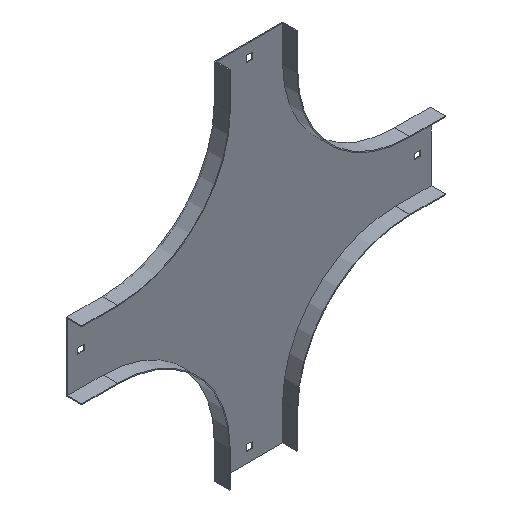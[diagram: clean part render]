
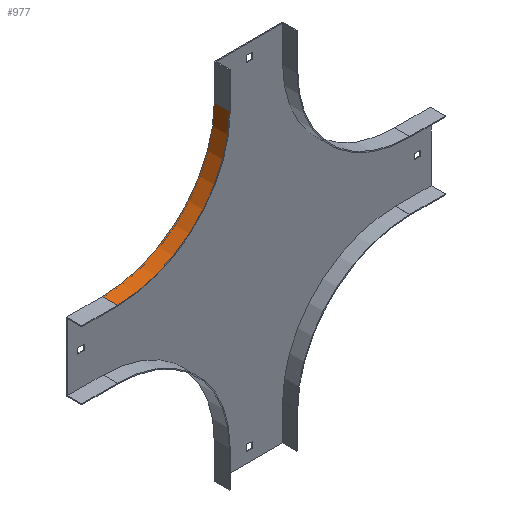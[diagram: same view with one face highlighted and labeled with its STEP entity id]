
A CAD part, isometric view. The second image highlights one B-rep face of the part: STEP entity #977.
In plain terms, the highlighted cylindrical face has radius 126 mm (diameter 252 mm), a partial arc.
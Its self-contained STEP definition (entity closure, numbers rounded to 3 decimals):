
#45 = DIRECTION ( 'NONE',  ( 0., 1., 0. ) ) ;
#75 = FACE_OUTER_BOUND ( 'NONE', #1374, .T. ) ;
#91 = ORIENTED_EDGE ( 'NONE', *, *, #1123, .T. ) ;
#97 = VERTEX_POINT ( 'NONE', #504 ) ;
#102 = CARTESIAN_POINT ( 'NONE',  ( -203., -17., 0. ) ) ;
#130 = CARTESIAN_POINT ( 'NONE',  ( -203., -17., 0. ) ) ;
#158 = VERTEX_POINT ( 'NONE', #1206 ) ;
#197 = VERTEX_POINT ( 'NONE', #1581 ) ;
#232 = CARTESIAN_POINT ( 'NONE',  ( -329., 0., 0. ) ) ;
#377 = VECTOR ( 'NONE', #1394, 1000. ) ;
#393 = LINE ( 'NONE', #1393, #1214 ) ;
#394 = EDGE_CURVE ( 'NONE', #97, #197, #393, .T. ) ;
#421 = CIRCLE ( 'NONE', #534, 126. ) ;
#498 = DIRECTION ( 'NONE',  ( 0., 1., 0. ) ) ;
#504 = CARTESIAN_POINT ( 'NONE',  ( -329., -17., -126. ) ) ;
#534 = AXIS2_PLACEMENT_3D ( 'NONE', #625, #1532, #892 ) ;
#625 = CARTESIAN_POINT ( 'NONE',  ( -329., -17., 0. ) ) ;
#851 = CARTESIAN_POINT ( 'NONE',  ( -329., -17., 0. ) ) ;
#885 = LINE ( 'NONE', #102, #377 ) ;
#886 = DIRECTION ( 'NONE',  ( 0., -1., 0. ) ) ;
#892 = DIRECTION ( 'NONE',  ( 0., 0., 1. ) ) ;
#896 = AXIS2_PLACEMENT_3D ( 'NONE', #232, #886, #1395 ) ;
#947 = DIRECTION ( 'NONE',  ( 0., 0., 1. ) ) ;
#977 = ADVANCED_FACE ( 'NONE', ( #75 ), #1204, .F. ) ;
#979 = ORIENTED_EDGE ( 'NONE', *, *, #1584, .T. ) ;
#1005 = CIRCLE ( 'NONE', #896, 126. ) ;
#1062 = EDGE_CURVE ( 'NONE', #197, #158, #1005, .T. ) ;
#1095 = ORIENTED_EDGE ( 'NONE', *, *, #1062, .F. ) ;
#1123 = EDGE_CURVE ( 'NONE', #97, #1358, #421, .T. ) ;
#1204 = CYLINDRICAL_SURFACE ( 'NONE', #1381, 126. ) ;
#1206 = CARTESIAN_POINT ( 'NONE',  ( -203., 0., 0. ) ) ;
#1214 = VECTOR ( 'NONE', #498, 1000. ) ;
#1358 = VERTEX_POINT ( 'NONE', #130 ) ;
#1374 = EDGE_LOOP ( 'NONE', ( #1095, #1561, #91, #979 ) ) ;
#1381 = AXIS2_PLACEMENT_3D ( 'NONE', #851, #45, #947 ) ;
#1393 = CARTESIAN_POINT ( 'NONE',  ( -329., -17., -126. ) ) ;
#1394 = DIRECTION ( 'NONE',  ( 0., 1., 0. ) ) ;
#1395 = DIRECTION ( 'NONE',  ( 0., 0., 1. ) ) ;
#1532 = DIRECTION ( 'NONE',  ( 0., -1., 0. ) ) ;
#1561 = ORIENTED_EDGE ( 'NONE', *, *, #394, .F. ) ;
#1581 = CARTESIAN_POINT ( 'NONE',  ( -329., 0., -126. ) ) ;
#1584 = EDGE_CURVE ( 'NONE', #1358, #158, #885, .T. ) ;
